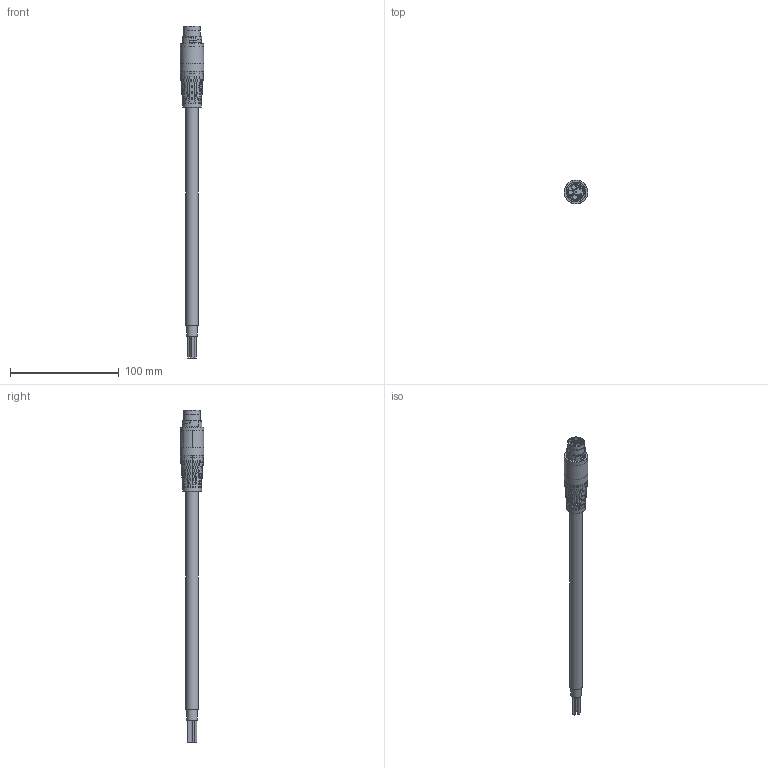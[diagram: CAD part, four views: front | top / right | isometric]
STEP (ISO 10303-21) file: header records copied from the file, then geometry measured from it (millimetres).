
FILE_DESCRIPTION (( 'STEP AP203' ), '1' );
FILE_NAME ('1162692_W-TEC_15M_STI_GLATT_STEP.STEP', '2023-09-06T06:10:45', ( '' ), ( '' ), 'SwSTEP 2.0', 'SolidWorks 2021', '' );
FILE_SCHEMA (( 'CONFIG_CONTROL_DESIGN' ));
Length unit declared in the file: millimetre
Products named in the file (1): 1162692_W-TEC_15M_STI_GLATT_STEP
Bounding box: 21.72 x 21.83 x 305.16 mm (x, y, z)
Surface area: 15720.8 mm2 (no closed solid volume)
Topology: 0 solids, 16 shells, 364 faces, 1382 edges, 931 vertices
Faces by surface type: bspline 150, plane 107, cylinder 59, cone 33, torus 15
Full cylindrical faces by diameter (mm): 1.2 x2, 1.6 x3, 2 x3, 4.4 x3, 9.2 x1, 9.8 x1, 11.6 x1, 15.2 x1, 15.4 x1, 17.384 x1, 21.24 x1, 21.72 x1
Entity records: 19220 total; most frequent: CARTESIAN_POINT 9928, ORIENTED_EDGE 2013, DIRECTION 1430, EDGE_CURVE 1315, VERTEX_POINT 924, AXIS2_PLACEMENT_3D 529, B_SPLINE_CURVE_WITH_KNOTS 515, EDGE_LOOP 414
